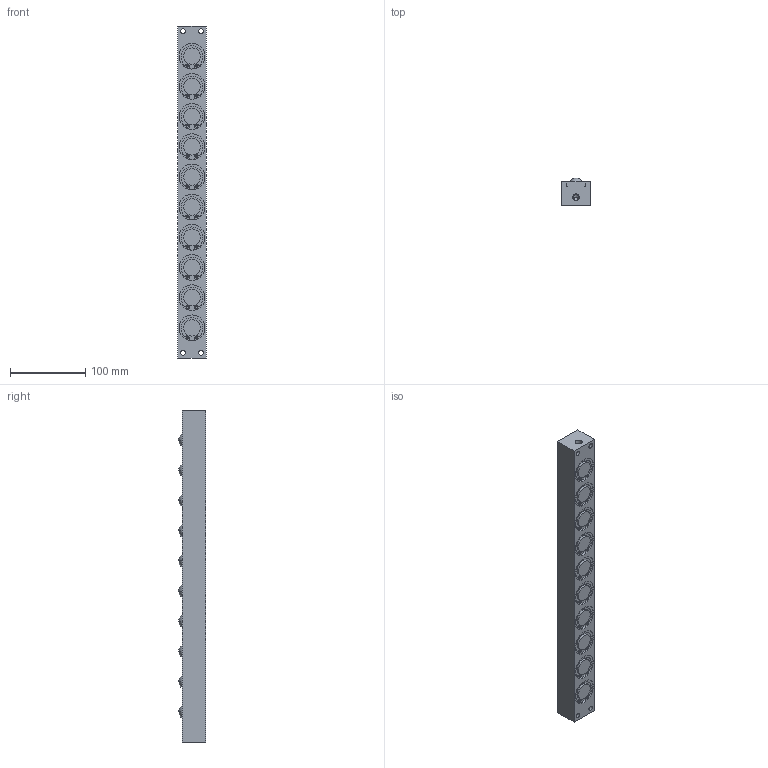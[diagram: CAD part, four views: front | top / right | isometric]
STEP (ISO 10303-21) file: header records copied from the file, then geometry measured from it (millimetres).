
FILE_DESCRIPTION (( 'STEP AP203' ), '1' );
FILE_NAME ('PVL30S-10.STEP', '2016-01-05T05:05:07', ( '' ), ( '' ), 'SwSTEP 2.0', 'SolidWorks 2013', '' );
FILE_SCHEMA (( 'CONFIG_CONTROL_DESIGN' ));
Length unit declared in the file: millimetre
Products named in the file (1): PVL30S-10
Bounding box: 38 x 36 x 440 mm (x, y, z)
Volume: 507282.5 mm3; surface area: 81130.9 mm2
Topology: 1 solids, 1 shells, 343 faces, 806 edges, 539 vertices
Faces by surface type: cylinder 218, plane 101, sphere 20, cone 4
Entity records: 10203 total; most frequent: DIRECTION 1992, CARTESIAN_POINT 1687, ORIENTED_EDGE 1608, AXIS2_PLACEMENT_3D 844, EDGE_CURVE 804, VERTEX_POINT 539, CIRCLE 500, EDGE_LOOP 427
